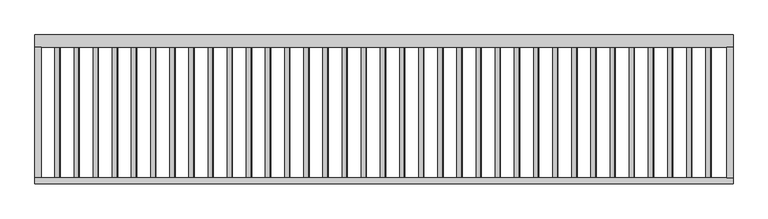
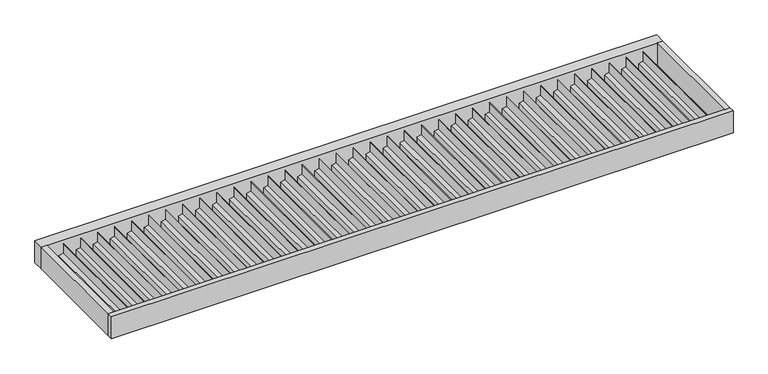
"""IFC4 building model written with IfcOpenShell, lengths in millimetres: proxy geometry, Renson_Amani_Canopy : Renson_Amani_Canopy."""

from ifc_helpers import new_model, si_unit, frame, origin, place, context, project, spatial, polyline, outline, extrude, source, transform, mapped, element, save


def generic_models_03fcded6(model_context):
    return source(origin(), model_context, "Body", "SweptSolid", [
        extrude(outline(polyline([(-99.0, 3855.0), (-150.0, 3855.0), (-150.0, 3885.0), (-27.0, 3885.0), (-27.0, 3883.0), (-92.0, 3883.0), (-99.0, 3855.0)])), frame((0.0, -820.0, 0.0), z_axis=(0.0, 1.0, 0.0), x_axis=(0.0, 0.0, 1.0)), (0.0, 0.0, 1.0), 750.0),
        extrude(outline(polyline([(-99.0, 3745.0), (-150.0, 3745.0), (-150.0, 3775.0), (-27.0, 3775.0), (-27.0, 3773.0), (-92.0, 3773.0), (-99.0, 3745.0)])), frame((0.0, -820.0, 0.0), z_axis=(0.0, 1.0, 0.0), x_axis=(0.0, 0.0, 1.0)), (0.0, 0.0, 1.0), 750.0),
        extrude(outline(polyline([(-99.0, 3635.0), (-150.0, 3635.0), (-150.0, 3665.0), (-27.0, 3665.0), (-27.0, 3663.0), (-92.0, 3663.0), (-99.0, 3635.0)])), frame((0.0, -820.0, 0.0), z_axis=(0.0, 1.0, 0.0), x_axis=(0.0, 0.0, 1.0)), (0.0, 0.0, 1.0), 750.0),
        extrude(outline(polyline([(-99.0, 3525.0), (-150.0, 3525.0), (-150.0, 3555.0), (-27.0, 3555.0), (-27.0, 3553.0), (-92.0, 3553.0), (-99.0, 3525.0)])), frame((0.0, -820.0, 0.0), z_axis=(0.0, 1.0, 0.0), x_axis=(0.0, 0.0, 1.0)), (0.0, 0.0, 1.0), 750.0),
        extrude(outline(polyline([(-99.0, 3415.0), (-150.0, 3415.0), (-150.0, 3445.0), (-27.0, 3445.0), (-27.0, 3443.0), (-92.0, 3443.0), (-99.0, 3415.0)])), frame((0.0, -820.0, 0.0), z_axis=(0.0, 1.0, 0.0), x_axis=(0.0, 0.0, 1.0)), (0.0, 0.0, 1.0), 750.0),
        extrude(outline(polyline([(-99.0, 3305.0), (-150.0, 3305.0), (-150.0, 3335.0), (-27.0, 3335.0), (-27.0, 3333.0), (-92.0, 3333.0), (-99.0, 3305.0)])), frame((0.0, -820.0, 0.0), z_axis=(0.0, 1.0, 0.0), x_axis=(0.0, 0.0, 1.0)), (0.0, 0.0, 1.0), 750.0),
        extrude(outline(polyline([(-99.0, 3195.0), (-150.0, 3195.0), (-150.0, 3225.0), (-27.0, 3225.0), (-27.0, 3223.0), (-92.0, 3223.0), (-99.0, 3195.0)])), frame((0.0, -820.0, 0.0), z_axis=(0.0, 1.0, 0.0), x_axis=(0.0, 0.0, 1.0)), (0.0, 0.0, 1.0), 750.0),
        extrude(outline(polyline([(-99.0, 3085.0), (-150.0, 3085.0), (-150.0, 3115.0), (-27.0, 3115.0), (-27.0, 3113.0), (-92.0, 3113.0), (-99.0, 3085.0)])), frame((0.0, -820.0, 0.0), z_axis=(0.0, 1.0, 0.0), x_axis=(0.0, 0.0, 1.0)), (0.0, 0.0, 1.0), 750.0),
        extrude(outline(polyline([(-99.0, 2975.0), (-150.0, 2975.0), (-150.0, 3005.0), (-27.0, 3005.0), (-27.0, 3003.0), (-92.0, 3003.0), (-99.0, 2975.0)])), frame((0.0, -820.0, 0.0), z_axis=(0.0, 1.0, 0.0), x_axis=(0.0, 0.0, 1.0)), (0.0, 0.0, 1.0), 750.0),
        extrude(outline(polyline([(-99.0, 2865.0), (-150.0, 2865.0), (-150.0, 2895.0), (-27.0, 2895.0), (-27.0, 2893.0), (-92.0, 2893.0), (-99.0, 2865.0)])), frame((0.0, -820.0, 0.0), z_axis=(0.0, 1.0, 0.0), x_axis=(0.0, 0.0, 1.0)), (0.0, 0.0, 1.0), 750.0),
        extrude(outline(polyline([(-99.0, 2755.0), (-150.0, 2755.0), (-150.0, 2785.0), (-27.0, 2785.0), (-27.0, 2783.0), (-92.0, 2783.0), (-99.0, 2755.0)])), frame((0.0, -820.0, 0.0), z_axis=(0.0, 1.0, 0.0), x_axis=(0.0, 0.0, 1.0)), (0.0, 0.0, 1.0), 750.0),
        extrude(outline(polyline([(-99.0, 2645.0), (-150.0, 2645.0), (-150.0, 2675.0), (-27.0, 2675.0), (-27.0, 2673.0), (-92.0, 2673.0), (-99.0, 2645.0)])), frame((0.0, -820.0, 0.0), z_axis=(0.0, 1.0, 0.0), x_axis=(0.0, 0.0, 1.0)), (0.0, 0.0, 1.0), 750.0),
        extrude(outline(polyline([(-99.0, 2535.0), (-150.0, 2535.0), (-150.0, 2565.0), (-27.0, 2565.0), (-27.0, 2563.0), (-92.0, 2563.0), (-99.0, 2535.0)])), frame((0.0, -820.0, 0.0), z_axis=(0.0, 1.0, 0.0), x_axis=(0.0, 0.0, 1.0)), (0.0, 0.0, 1.0), 750.0),
        extrude(outline(polyline([(-99.0, 2425.0), (-150.0, 2425.0), (-150.0, 2455.0), (-27.0, 2455.0), (-27.0, 2453.0), (-92.0, 2453.0), (-99.0, 2425.0)])), frame((0.0, -820.0, 0.0), z_axis=(0.0, 1.0, 0.0), x_axis=(0.0, 0.0, 1.0)), (0.0, 0.0, 1.0), 750.0),
        extrude(outline(polyline([(-99.0, 2315.0), (-150.0, 2315.0), (-150.0, 2345.0), (-27.0, 2345.0), (-27.0, 2343.0), (-92.0, 2343.0), (-99.0, 2315.0)])), frame((0.0, -820.0, 0.0), z_axis=(0.0, 1.0, 0.0), x_axis=(0.0, 0.0, 1.0)), (0.0, 0.0, 1.0), 750.0),
        extrude(outline(polyline([(-99.0, 2205.0), (-150.0, 2205.0), (-150.0, 2235.0), (-27.0, 2235.0), (-27.0, 2233.0), (-92.0, 2233.0), (-99.0, 2205.0)])), frame((0.0, -820.0, 0.0), z_axis=(0.0, 1.0, 0.0), x_axis=(0.0, 0.0, 1.0)), (0.0, 0.0, 1.0), 750.0),
        extrude(outline(polyline([(-99.0, 2095.0), (-150.0, 2095.0), (-150.0, 2125.0), (-27.0, 2125.0), (-27.0, 2123.0), (-92.0, 2123.0), (-99.0, 2095.0)])), frame((0.0, -820.0, 0.0), z_axis=(0.0, 1.0, 0.0), x_axis=(0.0, 0.0, 1.0)), (0.0, 0.0, 1.0), 750.0),
        extrude(outline(polyline([(-99.0, 1985.0), (-150.0, 1985.0), (-150.0, 2015.0), (-27.0, 2015.0), (-27.0, 2013.0), (-92.0, 2013.0), (-99.0, 1985.0)])), frame((0.0, -820.0, 0.0), z_axis=(0.0, 1.0, 0.0), x_axis=(0.0, 0.0, 1.0)), (0.0, 0.0, 1.0), 750.0),
        extrude(outline(polyline([(-99.0, 1875.0), (-150.0, 1875.0), (-150.0, 1905.0), (-27.0, 1905.0), (-27.0, 1903.0), (-92.0, 1903.0), (-99.0, 1875.0)])), frame((0.0, -820.0, 0.0), z_axis=(0.0, 1.0, 0.0), x_axis=(0.0, 0.0, 1.0)), (0.0, 0.0, 1.0), 750.0),
        extrude(outline(polyline([(-99.0, 1765.0), (-150.0, 1765.0), (-150.0, 1795.0), (-27.0, 1795.0), (-27.0, 1793.0), (-92.0, 1793.0), (-99.0, 1765.0)])), frame((0.0, -820.0, 0.0), z_axis=(0.0, 1.0, 0.0), x_axis=(0.0, 0.0, 1.0)), (0.0, 0.0, 1.0), 750.0),
        extrude(outline(polyline([(-99.0, 1655.0), (-150.0, 1655.0), (-150.0, 1685.0), (-27.0, 1685.0), (-27.0, 1683.0), (-92.0, 1683.0), (-99.0, 1655.0)])), frame((0.0, -820.0, 0.0), z_axis=(0.0, 1.0, 0.0), x_axis=(0.0, 0.0, 1.0)), (0.0, 0.0, 1.0), 750.0),
        extrude(outline(polyline([(-99.0, 1545.0), (-150.0, 1545.0), (-150.0, 1575.0), (-27.0, 1575.0), (-27.0, 1573.0), (-92.0, 1573.0), (-99.0, 1545.0)])), frame((0.0, -820.0, 0.0), z_axis=(0.0, 1.0, 0.0), x_axis=(0.0, 0.0, 1.0)), (0.0, 0.0, 1.0), 750.0),
        extrude(outline(polyline([(-99.0, 1435.0), (-150.0, 1435.0), (-150.0, 1465.0), (-27.0, 1465.0), (-27.0, 1463.0), (-92.0, 1463.0), (-99.0, 1435.0)])), frame((0.0, -820.0, 0.0), z_axis=(0.0, 1.0, 0.0), x_axis=(0.0, 0.0, 1.0)), (0.0, 0.0, 1.0), 750.0),
        extrude(outline(polyline([(-99.0, 1325.0), (-150.0, 1325.0), (-150.0, 1355.0), (-27.0, 1355.0), (-27.0, 1353.0), (-92.0, 1353.0), (-99.0, 1325.0)])), frame((0.0, -820.0, 0.0), z_axis=(0.0, 1.0, 0.0), x_axis=(0.0, 0.0, 1.0)), (0.0, 0.0, 1.0), 750.0),
        extrude(outline(polyline([(-99.0, 1215.0), (-150.0, 1215.0), (-150.0, 1245.0), (-27.0, 1245.0), (-27.0, 1243.0), (-92.0, 1243.0), (-99.0, 1215.0)])), frame((0.0, -820.0, 0.0), z_axis=(0.0, 1.0, 0.0), x_axis=(0.0, 0.0, 1.0)), (0.0, 0.0, 1.0), 750.0),
        extrude(outline(polyline([(-99.0, 1105.0), (-150.0, 1105.0), (-150.0, 1135.0), (-27.0, 1135.0), (-27.0, 1133.0), (-92.0, 1133.0), (-99.0, 1105.0)])), frame((0.0, -820.0, 0.0), z_axis=(0.0, 1.0, 0.0), x_axis=(0.0, 0.0, 1.0)), (0.0, 0.0, 1.0), 750.0),
        extrude(outline(polyline([(-99.0, 995.0), (-150.0, 995.0), (-150.0, 1025.0), (-27.0, 1025.0), (-27.0, 1023.0), (-92.0, 1023.0), (-99.0, 995.0)])), frame((0.0, -820.0, 0.0), z_axis=(0.0, 1.0, 0.0), x_axis=(0.0, 0.0, 1.0)), (0.0, 0.0, 1.0), 750.0),
        extrude(outline(polyline([(-99.0, 885.0), (-150.0, 885.0), (-150.0, 915.0), (-27.0, 915.0), (-27.0, 913.0), (-92.0, 913.0), (-99.0, 885.0)])), frame((0.0, -820.0, 0.0), z_axis=(0.0, 1.0, 0.0), x_axis=(0.0, 0.0, 1.0)), (0.0, 0.0, 1.0), 750.0),
        extrude(outline(polyline([(-99.0, 775.0), (-150.0, 775.0), (-150.0, 805.0), (-27.0, 805.0), (-27.0, 803.0), (-92.0, 803.0), (-99.0, 775.0)])), frame((0.0, -820.0, 0.0), z_axis=(0.0, 1.0, 0.0), x_axis=(0.0, 0.0, 1.0)), (0.0, 0.0, 1.0), 750.0),
        extrude(outline(polyline([(-99.0, 665.0), (-150.0, 665.0), (-150.0, 695.0), (-27.0, 695.0), (-27.0, 693.0), (-92.0, 693.0), (-99.0, 665.0)])), frame((0.0, -820.0, 0.0), z_axis=(0.0, 1.0, 0.0), x_axis=(0.0, 0.0, 1.0)), (0.0, 0.0, 1.0), 750.0),
        extrude(outline(polyline([(-99.0, 555.0), (-150.0, 555.0), (-150.0, 585.0), (-27.0, 585.0), (-27.0, 583.0), (-92.0, 583.0), (-99.0, 555.0)])), frame((0.0, -820.0, 0.0), z_axis=(0.0, 1.0, 0.0), x_axis=(0.0, 0.0, 1.0)), (0.0, 0.0, 1.0), 750.0),
        extrude(outline(polyline([(-99.0, 445.0), (-150.0, 445.0), (-150.0, 475.0), (-27.0, 475.0), (-27.0, 473.0), (-92.0, 473.0), (-99.0, 445.0)])), frame((0.0, -820.0, 0.0), z_axis=(0.0, 1.0, 0.0), x_axis=(0.0, 0.0, 1.0)), (0.0, 0.0, 1.0), 750.0),
        extrude(outline(polyline([(-99.0, 335.0), (-150.0, 335.0), (-150.0, 365.0), (-27.0, 365.0), (-27.0, 363.0), (-92.0, 363.0), (-99.0, 335.0)])), frame((0.0, -820.0, 0.0), z_axis=(0.0, 1.0, 0.0), x_axis=(0.0, 0.0, 1.0)), (0.0, 0.0, 1.0), 750.0),
        extrude(outline(polyline([(-99.0, 225.0), (-150.0, 225.0), (-150.0, 255.0), (-27.0, 255.0), (-27.0, 253.0), (-92.0, 253.0), (-99.0, 225.0)])), frame((0.0, -820.0, 0.0), z_axis=(0.0, 1.0, 0.0), x_axis=(0.0, 0.0, 1.0)), (0.0, 0.0, 1.0), 750.0),
        extrude(outline(polyline([(-99.0, 115.0), (-150.0, 115.0), (-150.0, 145.0), (-27.0, 145.0), (-27.0, 143.0), (-92.0, 143.0), (-99.0, 115.0)])), frame((0.0, -820.0, 0.0), z_axis=(0.0, 1.0, 0.0), x_axis=(0.0, 0.0, 1.0)), (0.0, 0.0, 1.0), 750.0),
        extrude(outline(polyline([(4011.8561073, -70.0), (4011.8561073, -820.0), (3976.8561073, -820.0), (3976.8561073, -70.0), (4011.8561073, -70.0)])), frame((0.0, 0.0, -150.0), z_axis=(0.0, 0.0, 1.0), x_axis=(1.0, 0.0, 0.0)), (0.0, 0.0, 1.0), 150.0),
        extrude(outline(polyline([(4011.8561073, -855.0), (0.0, -855.0), (0.0, -820.0), (4011.8561073, -820.0), (4011.8561073, -855.0)])), frame((0.0, 0.0, -150.0), z_axis=(0.0, 0.0, 1.0), x_axis=(1.0, 0.0, 0.0)), (0.0, 0.0, 1.0), 150.0),
        extrude(outline(polyline([(35.0, -70.0), (35.0, -820.0), (0.0, -820.0), (0.0, -70.0), (35.0, -70.0)])), frame((0.0, 0.0, -150.0), z_axis=(0.0, 0.0, 1.0), x_axis=(1.0, 0.0, 0.0)), (0.0, 0.0, 1.0), 150.0),
        extrude(outline(polyline([(4011.8561073, -70.0), (0.0, -70.0), (0.0, 0.0), (4011.8561073, 0.0), (4011.8561073, -70.0)])), frame((0.0, 0.0, -150.0), z_axis=(0.0, 0.0, 1.0), x_axis=(1.0, 0.0, 0.0)), (0.0, 0.0, 1.0), 150.0),
    ])


if __name__ == "__main__":
    model = new_model("IFC4")
    model_context = context("Model", 3, world=origin())
    ifc_project = project(units=[si_unit("LENGTHUNIT", "METRE", prefix="MILLI")], contexts=[model_context])
    site = spatial("IfcSite", under=ifc_project)
    building = spatial("IfcBuilding", under=site)
    placement = place(None, origin())
    generic_models_shape = generic_models_03fcded6(model_context)
    element("IfcBuildingElementProxy", 1, Name="Renson_Amani_Canopy : Renson_Amani_Canopy", ObjectType="Renson_Amani_Canopy : Renson_Amani_Canopy", at=placement, inside=building, context=model_context, shape_type="MappedRepresentation", body=[
        mapped(generic_models_shape, transform((0.0, 0.0, 0.0), x_axis=(1.0, 0.0, 0.0), y_axis=(0.0, 1.0, 0.0), z_axis=(0.0, 0.0, 1.0))),
    ])
    save(model, "model.ifc")
